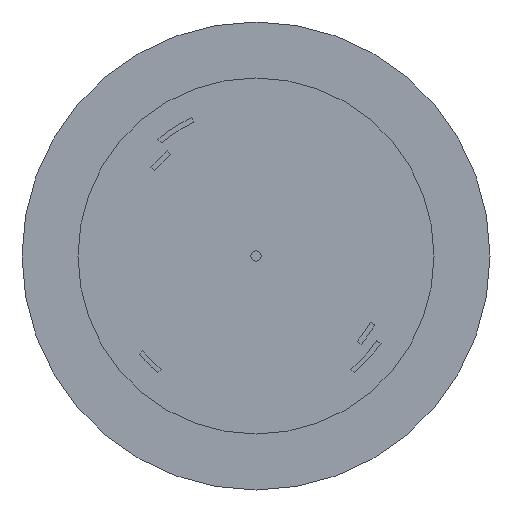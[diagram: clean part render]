
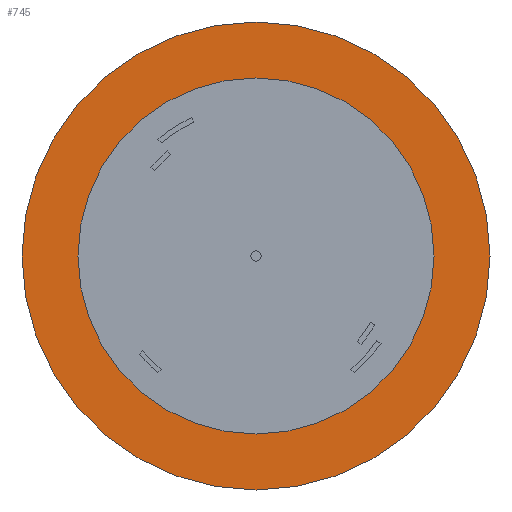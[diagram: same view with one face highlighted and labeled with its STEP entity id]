
A CAD part, front view. The second image highlights one B-rep face of the part: STEP entity #745.
In plain terms, the highlighted planar face has unit normal (0, -1, 0).
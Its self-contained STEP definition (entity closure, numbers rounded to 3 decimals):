
#471 = VERTEX_POINT( '', #1259 );
#475 = EDGE_CURVE( '', #1057, #471, #1263, .T. );
#621 = EDGE_CURVE( '', #1177, #827, #1419, .T. );
#713 = EDGE_CURVE( '', #471, #1057, #1533, .T. );
#745 = ADVANCED_FACE( '', ( #1568, #1569 ), #1570, .F. );
#827 = VERTEX_POINT( '', #1662 );
#939 = EDGE_CURVE( '', #827, #1177, #1788, .T. );
#1057 = VERTEX_POINT( '', #1918 );
#1177 = VERTEX_POINT( '', #2047 );
#1259 = CARTESIAN_POINT( '', ( 77., -18., 0. ) );
#1263 = CIRCLE( '', #2159, 35. );
#1419 = CIRCLE( '', #2372, 46. );
#1533 = CIRCLE( '', #2508, 35. );
#1568 = FACE_BOUND( '', #2551, .T. );
#1569 = FACE_OUTER_BOUND( '', #2552, .T. );
#1570 = PLANE( '', #2553 );
#1662 = CARTESIAN_POINT( '', ( -4., -18., 0. ) );
#1788 = CIRCLE( '', #2842, 46. );
#1918 = CARTESIAN_POINT( '', ( 7., -18., 0. ) );
#2047 = CARTESIAN_POINT( '', ( 88., -18., 0. ) );
#2159 = AXIS2_PLACEMENT_3D( '', #3243, #3244, #3245 );
#2372 = AXIS2_PLACEMENT_3D( '', #3416, #3417, #3418 );
#2508 = AXIS2_PLACEMENT_3D( '', #3604, #3605, #3606 );
#2551 = EDGE_LOOP( '', ( #3646, #3647 ) );
#2552 = EDGE_LOOP( '', ( #3648, #3649 ) );
#2553 = AXIS2_PLACEMENT_3D( '', #3650, #3651, #3652 );
#2842 = AXIS2_PLACEMENT_3D( '', #3934, #3935, #3936 );
#3243 = CARTESIAN_POINT( '', ( 42., -18., 0. ) );
#3244 = DIRECTION( '', ( 0., 1., 0. ) );
#3245 = DIRECTION( '', ( 1., 0., 0. ) );
#3416 = CARTESIAN_POINT( '', ( 42., -18., 0. ) );
#3417 = DIRECTION( '', ( 0., 1., 0. ) );
#3418 = DIRECTION( '', ( 1., 0., 0. ) );
#3604 = CARTESIAN_POINT( '', ( 42., -18., 0. ) );
#3605 = DIRECTION( '', ( 0., 1., 0. ) );
#3606 = DIRECTION( '', ( 1., 0., 0. ) );
#3646 = ORIENTED_EDGE( '', *, *, #713, .T. );
#3647 = ORIENTED_EDGE( '', *, *, #475, .T. );
#3648 = ORIENTED_EDGE( '', *, *, #621, .F. );
#3649 = ORIENTED_EDGE( '', *, *, #939, .F. );
#3650 = CARTESIAN_POINT( '', ( 0., -18., 0. ) );
#3651 = DIRECTION( '', ( 0., 1., 0. ) );
#3652 = DIRECTION( '', ( 0., 0., 1. ) );
#3934 = CARTESIAN_POINT( '', ( 42., -18., 0. ) );
#3935 = DIRECTION( '', ( 0., 1., 0. ) );
#3936 = DIRECTION( '', ( 1., 0., 0. ) );
